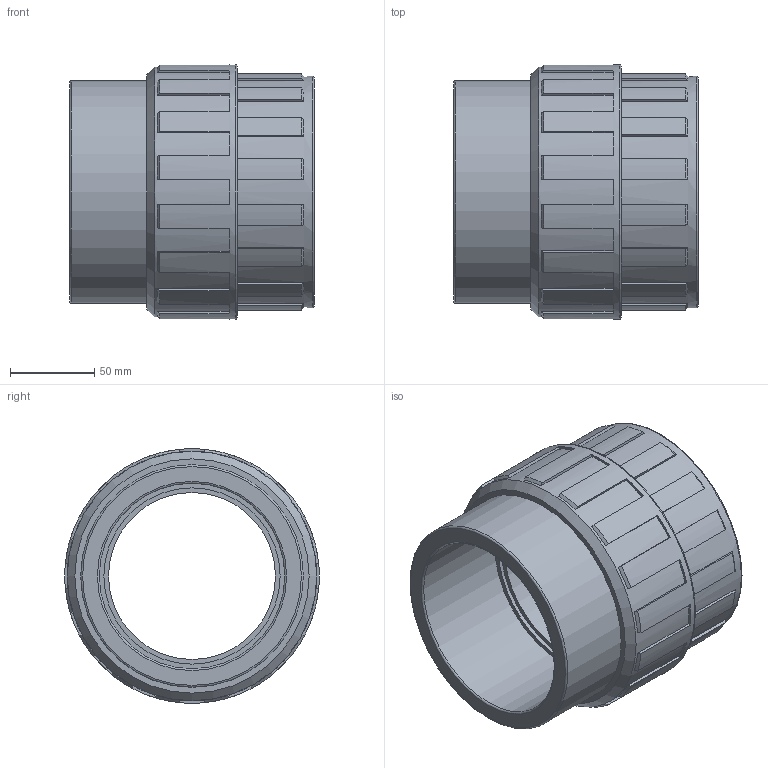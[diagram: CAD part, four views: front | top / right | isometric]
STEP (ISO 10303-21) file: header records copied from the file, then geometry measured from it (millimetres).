
FILE_DESCRIPTION(/* description */ ('PLASSON UNION+O RING-CEM PVC 110'),/* implementation_level */ '2;1');
FILE_NAME(/* name */ 'C:\Dropbox\KIMPROJECTS-Inventor\99-16-3568-Processing\PVC Catalog 2017\050800\050800110.ipt.stp',/* time_stamp */ '2017-12-07T15:57:55+02:00',/* author */ ('Кирилл'),/* organization */ (''),/* preprocessor_version */ 'ST-DEVELOPER v15.6',/* originating_system */ 'Autodesk Inventor 2015',/* authorisation */ '');
FILE_SCHEMA (('AUTOMOTIVE_DESIGN { 1 0 10303 214 3 1 1 }'));
Length unit declared in the file: millimetre
Products named in the file (1): 050800110
Bounding box: 145 x 151 x 151 mm (x, y, z)
Volume: 912475.8 mm3; surface area: 135271.2 mm2
Topology: 1 solids, 1 shells, 149 faces, 420 edges, 278 vertices
Faces by surface type: plane 87, cone 33, cylinder 24, torus 5
Full cylindrical faces by diameter (mm): 99 x1, 104.5 x1, 110 x2, 132 x1, 137.5 x1, 147.98 x1, 151 x1
Entity records: 4784 total; most frequent: DIRECTION 850, CARTESIAN_POINT 828, ORIENTED_EDGE 806, EDGE_CURVE 403, AXIS2_PLACEMENT_3D 297, VERTEX_POINT 275, LINE 256, VECTOR 256
